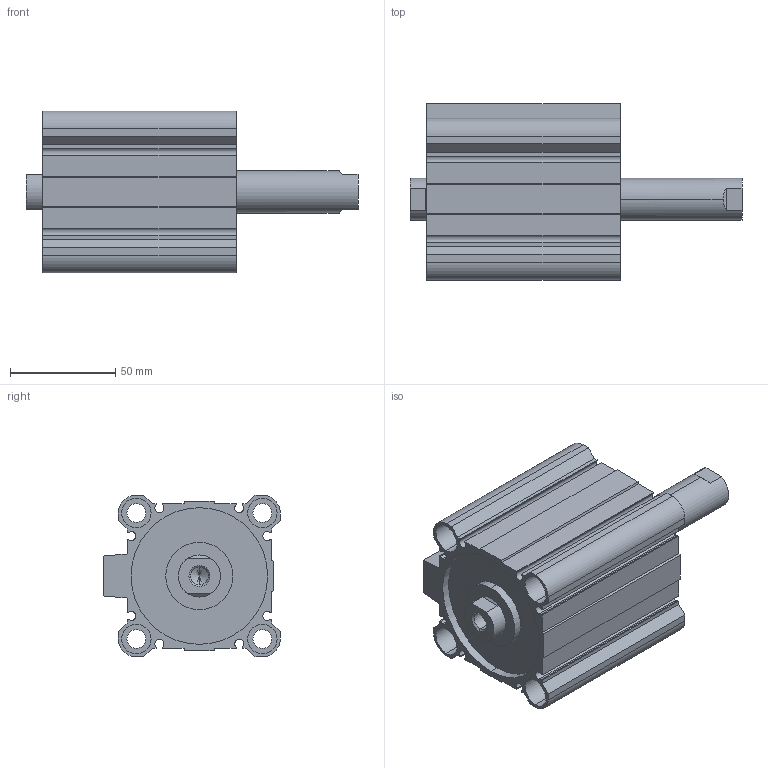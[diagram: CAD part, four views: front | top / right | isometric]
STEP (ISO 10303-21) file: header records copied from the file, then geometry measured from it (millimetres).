
FILE_DESCRIPTION (( 'STEP AP203' ), '1' );
FILE_NAME ('CCMB63-50F-P.STEP', '2020-08-05T11:47:56', ( '' ), ( '' ), 'SwSTEP 2.0', 'SolidWorks 2019', '' );
FILE_SCHEMA (( 'CONFIG_CONTROL_DESIGN' ));
Length unit declared in the file: millimetre
Products named in the file (1): CCMB63-50F-P
Bounding box: 158 x 84 x 77 mm (x, y, z)
Volume: 305267.2 mm3; surface area: 101747.5 mm2
Topology: 2 solids, 2 shells, 176 faces, 450 edges, 294 vertices
Faces by surface type: plane 90, cylinder 74, cone 12
Entity records: 5421 total; most frequent: DIRECTION 948, CARTESIAN_POINT 941, ORIENTED_EDGE 892, EDGE_CURVE 446, AXIS2_PLACEMENT_3D 333, VERTEX_POINT 294, VECTOR 282, LINE 282
